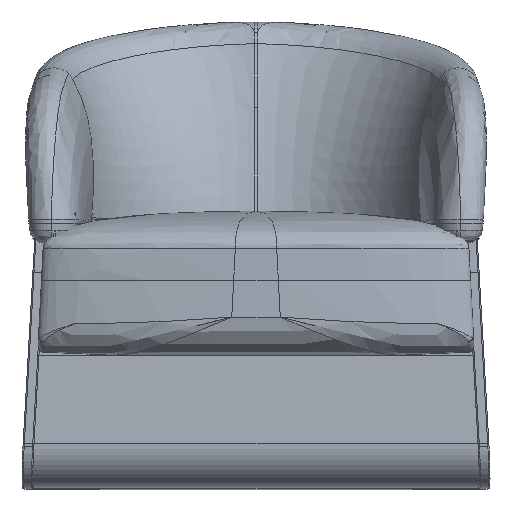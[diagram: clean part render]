
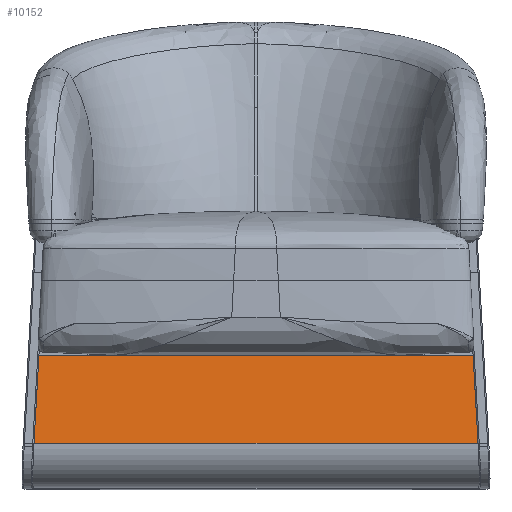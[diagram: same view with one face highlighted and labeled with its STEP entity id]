
A CAD part, top view. The second image highlights one B-rep face of the part: STEP entity #10152.
In plain terms, the highlighted planar face has unit normal (0, 0.087, 0.996).
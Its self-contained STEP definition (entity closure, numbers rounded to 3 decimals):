
#802 = VERTEX_POINT ( 'NONE', #48438 ) ;
#865 = CARTESIAN_POINT ( 'NONE',  ( -445.708, 76.031, 341.255 ) ) ;
#1089 = VECTOR ( 'NONE', #8097, 1000. ) ;
#2316 = FACE_OUTER_BOUND ( 'NONE', #47201, .T. ) ;
#6113 = DIRECTION ( 'NONE',  ( 1., 0., 0. ) ) ;
#8097 = DIRECTION ( 'NONE',  ( 1., 0., 0. ) ) ;
#10152 = ADVANCED_FACE ( 'NONE', ( #2316 ), #57456, .T. ) ;
#11183 = CARTESIAN_POINT ( 'NONE',  ( 361.797, 221.892, 328.494 ) ) ;
#11295 = ORIENTED_EDGE ( 'NONE', *, *, #26035, .F. ) ;
#13997 = VECTOR ( 'NONE', #6113, 1000. ) ;
#16225 = VERTEX_POINT ( 'NONE', #34107 ) ;
#17206 = CARTESIAN_POINT ( 'NONE',  ( 367.311, 124.652, 337.001 ) ) ;
#17403 = CARTESIAN_POINT ( 'NONE',  ( -364.554, 173.272, 332.748 ) ) ;
#18011 = CARTESIAN_POINT ( 'NONE',  ( 370.069, 76.031, 341.255 ) ) ;
#22467 = B_SPLINE_CURVE_WITH_KNOTS ( 'NONE', 3,
 ( #54455, #53651, #17403, #52863 ),
 .UNSPECIFIED., .F., .F.,
 ( 4, 4 ),
 ( 0., 0.147 ),
 .UNSPECIFIED. ) ;
#22680 = EDGE_CURVE ( 'NONE', #27501, #75846, #22467, .T. ) ;
#26035 = EDGE_CURVE ( 'NONE', #75846, #802, #61262, .T. ) ;
#27501 = VERTEX_POINT ( 'NONE', #69799 ) ;
#27975 = ORIENTED_EDGE ( 'NONE', *, *, #22680, .F. ) ;
#29704 = CARTESIAN_POINT ( 'NONE',  ( 364.554, 173.272, 332.748 ) ) ;
#30381 = ORIENTED_EDGE ( 'NONE', *, *, #58565, .T. ) ;
#31076 = CARTESIAN_POINT ( 'NONE',  ( -445.708, 221.892, 328.494 ) ) ;
#34107 = CARTESIAN_POINT ( 'NONE',  ( 370.069, 76.031, 341.255 ) ) ;
#39734 = DIRECTION ( 'NONE',  ( 0., -0.996, 0.087 ) ) ;
#42984 = CARTESIAN_POINT ( 'NONE',  ( -361.797, 221.892, 328.494 ) ) ;
#45754 = CARTESIAN_POINT ( 'NONE',  ( -445.708, 221.892, 328.494 ) ) ;
#45756 = B_SPLINE_CURVE_WITH_KNOTS ( 'NONE', 3,
 ( #18011, #17206, #29704, #11183 ),
 .UNSPECIFIED., .F., .F.,
 ( 4, 4 ),
 ( 0., 0.147 ),
 .UNSPECIFIED. ) ;
#47201 = EDGE_LOOP ( 'NONE', ( #27975, #30381, #68706, #11295 ) ) ;
#48438 = CARTESIAN_POINT ( 'NONE',  ( 361.797, 221.892, 328.494 ) ) ;
#51001 = DIRECTION ( 'NONE',  ( 0., 0.087, 0.996 ) ) ;
#51135 = LINE ( 'NONE', #865, #1089 ) ;
#52863 = CARTESIAN_POINT ( 'NONE',  ( -361.797, 221.892, 328.494 ) ) ;
#53651 = CARTESIAN_POINT ( 'NONE',  ( -367.311, 124.652, 337.001 ) ) ;
#54455 = CARTESIAN_POINT ( 'NONE',  ( -370.069, 76.031, 341.255 ) ) ;
#56576 = EDGE_CURVE ( 'NONE', #16225, #802, #45756, .T. ) ;
#57456 = PLANE ( 'NONE',  #70214 ) ;
#58565 = EDGE_CURVE ( 'NONE', #27501, #16225, #51135, .T. ) ;
#61262 = LINE ( 'NONE', #31076, #13997 ) ;
#68706 = ORIENTED_EDGE ( 'NONE', *, *, #56576, .T. ) ;
#69799 = CARTESIAN_POINT ( 'NONE',  ( -370.069, 76.031, 341.255 ) ) ;
#70214 = AXIS2_PLACEMENT_3D ( 'NONE', #45754, #51001, #39734 ) ;
#75846 = VERTEX_POINT ( 'NONE', #42984 ) ;
